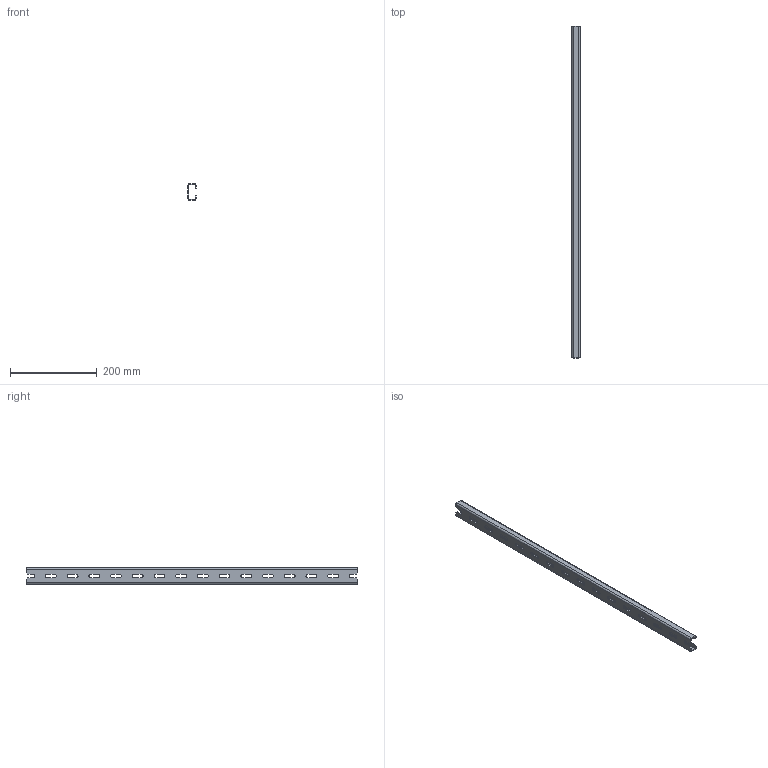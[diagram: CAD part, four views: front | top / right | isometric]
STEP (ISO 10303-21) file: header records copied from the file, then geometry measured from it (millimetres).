
FILE_DESCRIPTION (( 'STEP AP203' ), '1' );
FILE_NAME ('MG 80.04 C Òðàâåðñà ìîíòàæíàÿ.STEP', '2013-01-09T05:34:19', ( 'System' ), ( '' ), 'SwSTEP 2.0', 'SolidWorks 2012', '' );
FILE_SCHEMA (( 'CONFIG_CONTROL_DESIGN' ));
Length unit declared in the file: millimetre
Products named in the file (1): MG 80.04 C Òðàâåðñà ìîíòàæíàÿ
Bounding box: 18.5 x 764.5 x 38 mm (x, y, z)
Volume: 121372 mm3; surface area: 126557.5 mm2
Topology: 1 solids, 1 shells, 110 faces, 292 edges, 184 vertices
Faces by surface type: plane 72, cylinder 38
Entity records: 3509 total; most frequent: DIRECTION 590, CARTESIAN_POINT 587, ORIENTED_EDGE 584, EDGE_CURVE 292, LINE 216, VECTOR 216, AXIS2_PLACEMENT_3D 187, VERTEX_POINT 184
